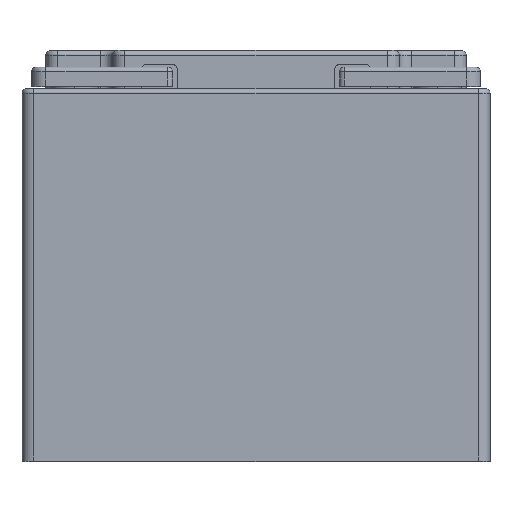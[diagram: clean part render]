
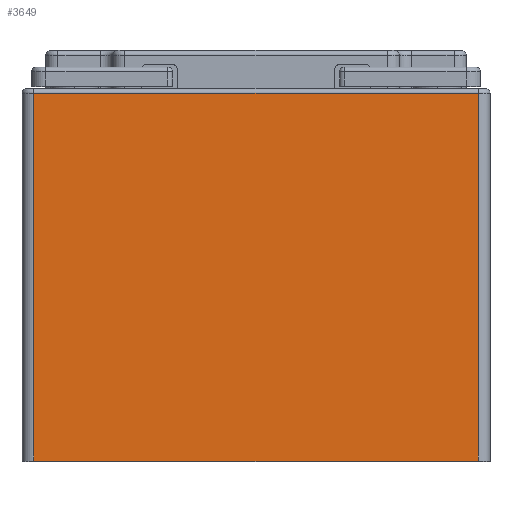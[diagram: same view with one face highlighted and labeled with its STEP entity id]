
A CAD part, top view. The second image highlights one B-rep face of the part: STEP entity #3649.
In plain terms, the highlighted planar face has unit normal (0, 0, 1).
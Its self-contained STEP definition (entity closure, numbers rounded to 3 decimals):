
#66 = VECTOR ( 'NONE', #1463, 1000. ) ;
#85 = ORIENTED_EDGE ( 'NONE', *, *, #4134, .F. ) ;
#121 = CARTESIAN_POINT ( 'NONE',  ( 191., 0., 0. ) ) ;
#188 = DIRECTION ( 'NONE',  ( 0., -1., 0. ) ) ;
#263 = ORIENTED_EDGE ( 'NONE', *, *, #4352, .T. ) ;
#494 = FACE_OUTER_BOUND ( 'NONE', #3044, .T. ) ;
#554 = VERTEX_POINT ( 'NONE', #2702 ) ;
#827 = AXIS2_PLACEMENT_3D ( 'NONE', #966, #4718, #4288 ) ;
#888 = DIRECTION ( 'NONE',  ( -1., 0., 0. ) ) ;
#966 = CARTESIAN_POINT ( 'NONE',  ( 5., 156., 0. ) ) ;
#1463 = DIRECTION ( 'NONE',  ( 0., -1., 0. ) ) ;
#1739 = PLANE ( 'NONE',  #827 ) ;
#1857 = VECTOR ( 'NONE', #188, 1000. ) ;
#1971 = LINE ( 'NONE', #4398, #66 ) ;
#2111 = LINE ( 'NONE', #3207, #3148 ) ;
#2115 = DIRECTION ( 'NONE',  ( 1., 0., 0. ) ) ;
#2260 = EDGE_CURVE ( 'NONE', #554, #3397, #2453, .T. ) ;
#2282 = EDGE_CURVE ( 'NONE', #4212, #3029, #2111, .T. ) ;
#2453 = LINE ( 'NONE', #3123, #3318 ) ;
#2702 = CARTESIAN_POINT ( 'NONE',  ( 191., 154., 0. ) ) ;
#2929 = ORIENTED_EDGE ( 'NONE', *, *, #2282, .T. ) ;
#3029 = VERTEX_POINT ( 'NONE', #121 ) ;
#3044 = EDGE_LOOP ( 'NONE', ( #85, #4217, #263, #2929 ) ) ;
#3123 = CARTESIAN_POINT ( 'NONE',  ( 5., 154., 0. ) ) ;
#3148 = VECTOR ( 'NONE', #2115, 1000. ) ;
#3207 = CARTESIAN_POINT ( 'NONE',  ( 5., 0., 0. ) ) ;
#3318 = VECTOR ( 'NONE', #888, 1000. ) ;
#3397 = VERTEX_POINT ( 'NONE', #4211 ) ;
#3649 = ADVANCED_FACE ( 'NONE', ( #494 ), #1739, .F. ) ;
#3917 = CARTESIAN_POINT ( 'NONE',  ( 191., 156., 0. ) ) ;
#4134 = EDGE_CURVE ( 'NONE', #554, #3029, #4179, .T. ) ;
#4179 = LINE ( 'NONE', #3917, #1857 ) ;
#4211 = CARTESIAN_POINT ( 'NONE',  ( 5., 154., 0. ) ) ;
#4212 = VERTEX_POINT ( 'NONE', #4267 ) ;
#4217 = ORIENTED_EDGE ( 'NONE', *, *, #2260, .T. ) ;
#4267 = CARTESIAN_POINT ( 'NONE',  ( 5., 0., 0. ) ) ;
#4288 = DIRECTION ( 'NONE',  ( -1., 0., 0. ) ) ;
#4352 = EDGE_CURVE ( 'NONE', #3397, #4212, #1971, .T. ) ;
#4398 = CARTESIAN_POINT ( 'NONE',  ( 5., 156., 0. ) ) ;
#4718 = DIRECTION ( 'NONE',  ( 0., 0., -1. ) ) ;
